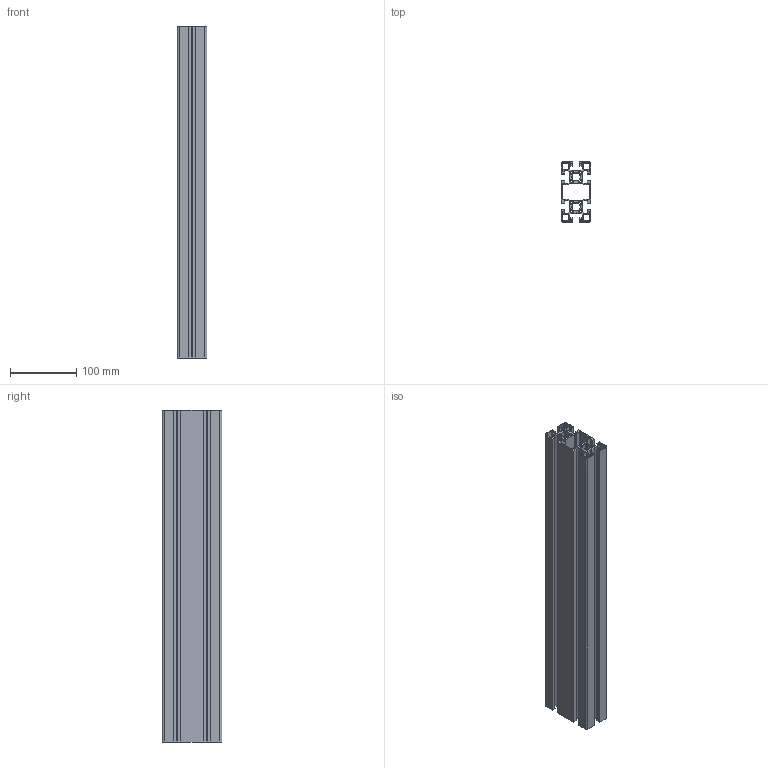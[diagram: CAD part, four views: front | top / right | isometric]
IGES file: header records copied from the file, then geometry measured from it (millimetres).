
Start section: SolidWorks IGES file using analytic representation for surfaces
Global section: file name: C:\Documents and Settings\Administrator\デスクトップ\指定保存後4回目\SolidWorks\SF\SF40・45\Frame\SFF-B494.IGS; native system: SolidWorks 2006 by SolidWorks Corporation; preprocessor: SolidWorks 2006 by SolidWorks Corporation; author: Administrator; date: 061218.105227; units: millimetre
Bounding box: 45 x 90 x 500 mm (x, y, z)
Volume: 550829.3 mm3; surface area: 539935.2 mm2
Topology: 1 solids, 1 shells, 488 faces, 1458 edges, 972 vertices
Faces by surface type: revolution 256, plane 232
